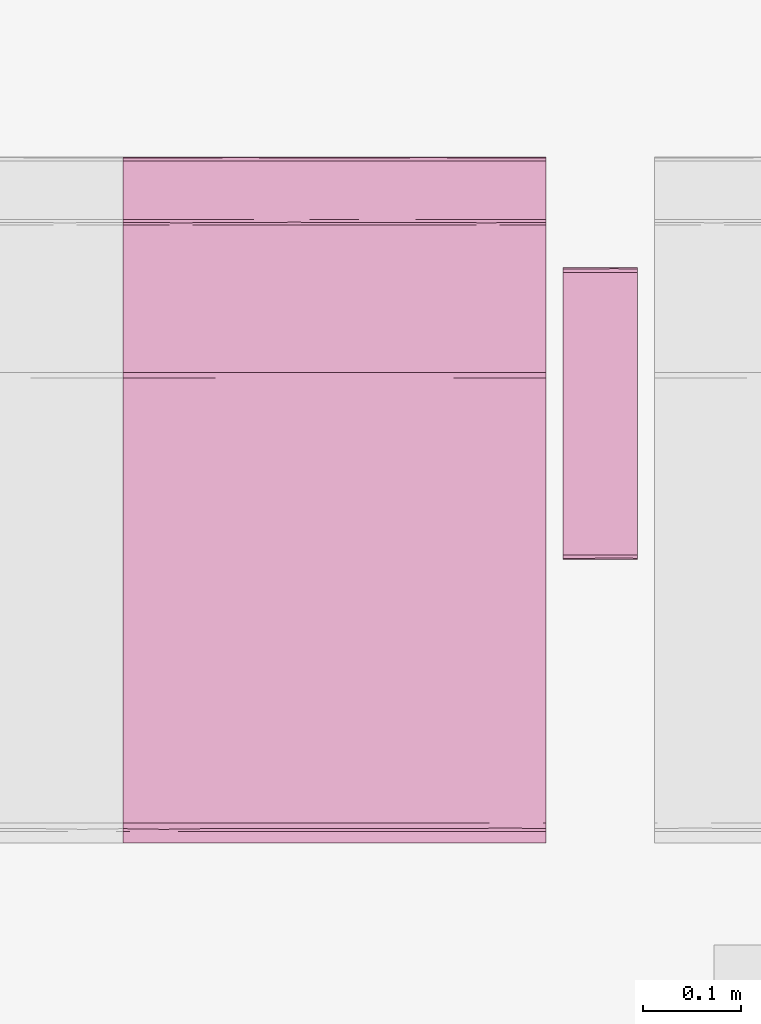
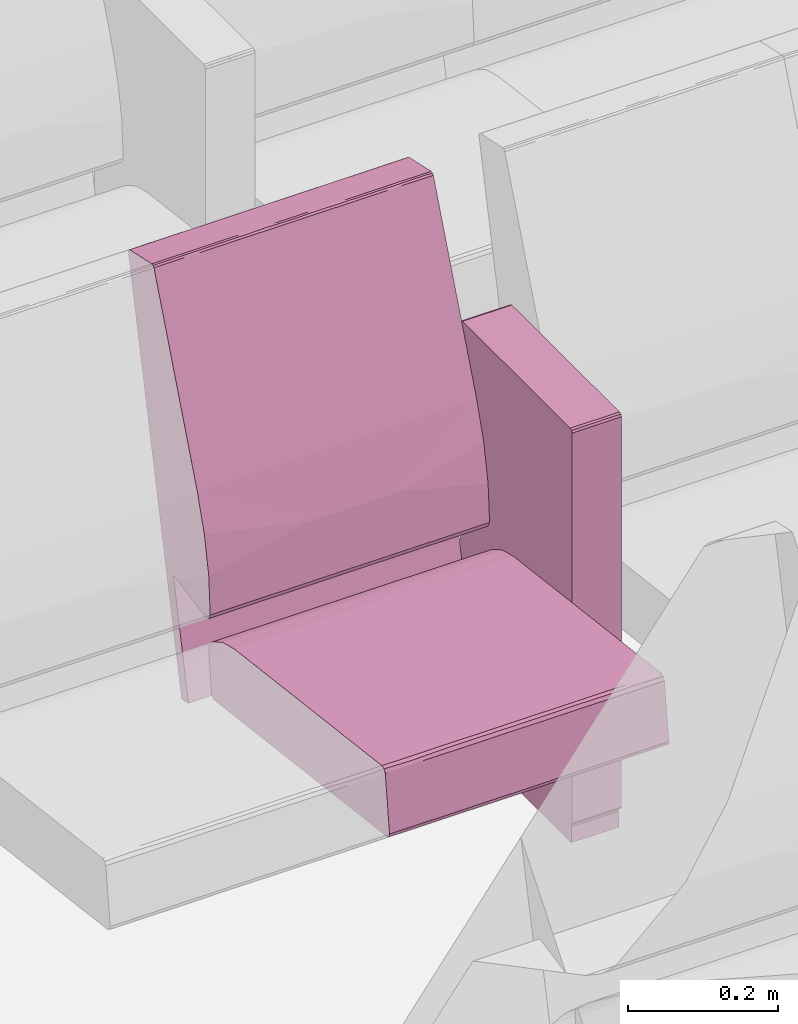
# One storey, part 96 of 155: 1 furnishing.
"""IFC2X3 building model written with IfcOpenShell, lengths in metres."""

from ifc_helpers import new_model, entity, si_unit, converted_unit, derived_unit, direction, frame, origin, place, context, subcontext, project, spatial, faceted_brep, source, transform, mapped, material, material_list, type_object, type_shapes, element, save


model = new_model("IFC2X3")

# Units and contexts
model_context = context("Model", 3, precision=1e-05, world=origin(), true_north=direction((6.12303176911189e-17, 1.0)))
body_context = subcontext(model_context, "Body", "Model", "MODEL_VIEW")
ifc_project = project(units=[si_unit("LENGTHUNIT", "METRE"), si_unit("AREAUNIT", "SQUARE_METRE"), si_unit("VOLUMEUNIT", "CUBIC_METRE"), converted_unit("PLANEANGLEUNIT", "DEGREE", entity("IfcRatioMeasure", 0.0174532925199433), si_unit("PLANEANGLEUNIT", "RADIAN"), dimensions=[0, 0, 0, 0, 0, 0, 0]), si_unit("MASSUNIT", "GRAM", prefix="KILO"), derived_unit("MASSDENSITYUNIT", [(si_unit("MASSUNIT", "GRAM", prefix="KILO"), 1), (si_unit("LENGTHUNIT", "METRE"), -3)]), si_unit("TIMEUNIT", "SECOND"), si_unit("FREQUENCYUNIT", "HERTZ"), si_unit("THERMODYNAMICTEMPERATUREUNIT", "DEGREE_CELSIUS"), derived_unit("THERMALTRANSMITTANCEUNIT", [(si_unit("MASSUNIT", "GRAM", prefix="KILO"), 1), (si_unit("THERMODYNAMICTEMPERATUREUNIT", "KELVIN"), -1), (si_unit("TIMEUNIT", "SECOND"), -3)]), derived_unit("VOLUMETRICFLOWRATEUNIT", [(si_unit("LENGTHUNIT", "METRE"), 3), (si_unit("TIMEUNIT", "SECOND"), -1)]), si_unit("ELECTRICCURRENTUNIT", "AMPERE"), si_unit("ELECTRICVOLTAGEUNIT", "VOLT"), si_unit("POWERUNIT", "WATT"), si_unit("FORCEUNIT", "NEWTON", prefix="KILO"), si_unit("ILLUMINANCEUNIT", "LUX"), si_unit("LUMINOUSFLUXUNIT", "LUMEN"), si_unit("LUMINOUSINTENSITYUNIT", "CANDELA"), derived_unit("USERDEFINED", [(si_unit("MASSUNIT", "GRAM", prefix="KILO"), -1), (si_unit("LENGTHUNIT", "METRE"), -2), (si_unit("TIMEUNIT", "SECOND"), 3), (si_unit("LUMINOUSFLUXUNIT", "LUMEN"), 1)]), derived_unit("LINEARVELOCITYUNIT", [(si_unit("LENGTHUNIT", "METRE"), 1), (si_unit("TIMEUNIT", "SECOND"), -1)]), si_unit("PRESSUREUNIT", "PASCAL"), derived_unit("USERDEFINED", [(si_unit("LENGTHUNIT", "METRE"), -2), (si_unit("MASSUNIT", "GRAM", prefix="KILO"), 1), (si_unit("TIMEUNIT", "SECOND"), -2)])], contexts=[model_context])

# Site, building, storey, space
site_placement = place(None, frame((26.9889013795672, -17.5624287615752, 0.0)))
site = spatial("IfcSite", under=ifc_project, at=site_placement, Name="Default", CompositionType="ELEMENT")
building_placement = place(site_placement, origin())
building = spatial("IfcBuilding", under=site, at=building_placement, Name="C. C. L. Monsenhor Antônio Sampaio", CompositionType="ELEMENT")
storey_placement = place(building_placement, frame((0.0, 0.0, 1.19999999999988)))
storey = spatial("IfcBuildingStorey", under=building, at=storey_placement, Name="Nível 1.2", CompositionType="ELEMENT", Elevation=1.19999999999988)
space_placement = place(storey_placement, origin())
space = spatial("IfcSpace", under=storey, at=space_placement, Name="94", CompositionType="ELEMENT", InteriorOrExteriorSpace="INTERNAL")

# Furnishing
ifc_material_1 = material(Name="V9 - V9 - Ecopelle_672_658")
ifc_material_2 = material(Name="V9 - V9 - RAL_9006_Grigio")
ifc_material_list_1 = material_list([ifc_material_1, ifc_material_2])
ifc_material_list_2 = material_list([ifc_material_1, ifc_material_2])
furniture_type = type_object("IfcFurnitureType", Name="Cadeira auditório", material=ifc_material_list_2)
shared_shape = source(origin(), body_context, "Body", "Brep", [
    faceted_brep([(0.405536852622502, -0.1075, 0.339809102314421), (0.410560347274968, -0.131924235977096, 0.34246450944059), (0.405536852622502, -0.156348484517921, 0.339809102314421), (0.41079981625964, -0.0179166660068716, 0.342749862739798), (0.410597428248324, -0.084060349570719, 0.342506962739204), (0.405536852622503, -0.0537499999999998, 0.339809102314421), (0.410248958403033, -0.173608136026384, 0.342130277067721), (0.405536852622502, -0.215, 0.339809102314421), (0.412515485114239, -0.143333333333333, 0.348529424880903), (0.412515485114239, -0.185674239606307, 0.348529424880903), (0.405536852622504, 0.1075, 0.33980910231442), (0.405536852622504, 0.156348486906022, 0.33980910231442), (0.410560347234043, 0.131924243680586, 0.342464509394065), (0.405536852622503, 0.0, 0.33980910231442), (0.411170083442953, 0.0341365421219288, 0.343251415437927), (0.41251548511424, 0.0, 0.348529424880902), (0.412515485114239, -0.0358333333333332, 0.348529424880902), (0.412515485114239, -0.0716666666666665, 0.348529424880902), (0.41251548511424, 0.143333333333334, 0.348529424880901), (0.41059742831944, 0.0840603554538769, 0.342506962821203), (0.405536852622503, 0.0537500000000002, 0.33980910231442), (0.410248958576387, 0.173608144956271, 0.342130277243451), (0.410799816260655, 0.215, 0.342749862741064), (0.412515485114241, 0.185674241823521, 0.348529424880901), (0.412515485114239, -0.215, 0.348529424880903), (0.410799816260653, -0.215, 0.342749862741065), (0.412515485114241, 0.215, 0.348529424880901), (0.41251548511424, 0.0716666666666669, 0.348529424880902), (0.405536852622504, 0.215, 0.33980910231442), (-0.0557900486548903, -0.215, 0.28268145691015), (-0.0557900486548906, -0.1881249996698, 0.282681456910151), (-0.0557900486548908, -0.161250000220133, 0.282681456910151), (-0.055790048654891, -0.134374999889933, 0.282681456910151), (-0.0557900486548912, -0.107499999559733, 0.282681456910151), (-0.0557900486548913, -0.0806250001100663, 0.282681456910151), (-0.0557900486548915, -0.0537499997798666, 0.282681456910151), (-0.0557900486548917, -0.0268749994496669, 0.282681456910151), (-0.0557900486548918, 0.0, 0.28268145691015), (-0.0557900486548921, 0.0268750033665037, 0.282681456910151), (-0.0557900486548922, 0.0537499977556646, 0.282681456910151), (-0.0557900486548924, 0.0806249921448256, 0.282681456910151), (-0.0557900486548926, 0.107499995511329, 0.282681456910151), (-0.0557900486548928, 0.138065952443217, 0.282681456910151), (-0.055790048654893, 0.168631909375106, 0.282681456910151), (-0.0557900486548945, 0.215, 0.28268145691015), (-0.0594787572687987, -0.0179017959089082, 0.283700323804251), (-0.0613666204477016, 0.0, 0.287029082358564), (-0.0594787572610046, 0.0152829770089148, 0.283700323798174), (-0.0594787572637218, -0.215, 0.283700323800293), (-0.0613666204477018, -0.215, 0.287029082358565), (-0.0613666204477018, -0.191815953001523, 0.287029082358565), (-0.0613666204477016, -0.030565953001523, 0.287029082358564), (-0.0593340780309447, -0.0671874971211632, 0.283591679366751), (-0.0593337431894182, 0.184174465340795, 0.283591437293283), (-0.0594787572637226, 0.215, 0.283700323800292), (-0.0593023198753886, 0.0940625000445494, 0.283568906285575), (-0.0613666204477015, 0.0611319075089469, 0.287029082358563), (-0.0613666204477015, 0.0916978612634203, 0.287029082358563), (-0.0613666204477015, 0.122263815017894, 0.287029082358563), (-0.0597338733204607, -0.147039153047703, 0.283913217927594), (-0.0613666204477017, -0.122263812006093, 0.287029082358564), (-0.059382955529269, -0.118123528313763, 0.28362747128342), (-0.0592501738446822, -0.180223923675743, 0.283532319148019), (-0.0613666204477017, -0.168631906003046, 0.287029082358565), (-0.0588783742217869, -0.0926899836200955, 0.283298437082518), (-0.0613666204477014, 0.168631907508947, 0.287029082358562), (-0.0613666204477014, 0.215, 0.287029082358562), (-0.0592576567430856, 0.123736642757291, 0.283537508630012), (-0.0594787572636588, 0.153348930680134, 0.283700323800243), (-0.0613666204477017, -0.0916978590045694, 0.287029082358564), (-0.0613666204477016, 0.0305659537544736, 0.287029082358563), (-0.059645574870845, 0.045848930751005, 0.283836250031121), (-0.0613666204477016, -0.0611319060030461, 0.287029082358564), (-0.0693403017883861, 0.143333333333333, 0.351419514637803), (-0.069340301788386, 0.215, 0.351419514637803), (-0.0693403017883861, -0.215, 0.351419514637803), (-0.0693403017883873, -0.143333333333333, 0.351419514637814), (-0.069340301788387, -0.0716666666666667, 0.351419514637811), (-0.0693403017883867, 0.0, 0.351419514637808), (-0.0693403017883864, 0.0716666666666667, 0.351419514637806), (-0.0653387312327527, -0.0126787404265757, 0.368680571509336), (-0.0645543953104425, -0.112272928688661, 0.369803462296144), (-0.0597085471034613, 0.0, 0.37476954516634), (-0.0655136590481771, 0.104400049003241, 0.368411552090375), (-0.0681665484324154, 0.0888707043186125, 0.36292533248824), (-0.0694879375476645, -0.0590582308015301, 0.356377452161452), (-0.0695056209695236, 0.125492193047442, 0.356093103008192), (-0.0597085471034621, 0.110316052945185, 0.374769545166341), (-0.0676206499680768, -0.215, 0.364371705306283), (-0.0672851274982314, -0.108066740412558, 0.365148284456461), (-0.0690003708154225, -0.132942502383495, 0.359900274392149), (-0.068624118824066, -0.215, 0.356813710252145), (-0.0686241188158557, 0.214999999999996, 0.356813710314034), (-0.0694502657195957, 0.0358333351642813, 0.356863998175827), (-0.0686999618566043, -0.035833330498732, 0.36116674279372), (-0.067620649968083, 0.214999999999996, 0.364371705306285), (-0.063664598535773, 0.214999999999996, 0.369570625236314), (-0.0597085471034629, 0.214999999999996, 0.374769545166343), (-0.0597085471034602, -0.110316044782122, 0.374769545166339), (-0.0636645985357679, -0.215, 0.36957062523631), (-0.0597085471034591, -0.215, 0.374769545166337), (-0.0018793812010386, -0.215, 0.398686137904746), (-0.0324117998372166, -0.0436847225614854, 0.39063968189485), (-0.0324117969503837, -0.215, 0.390639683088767), (-0.041847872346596, 0.0856576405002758, 0.386239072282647), (-0.00187938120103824, 0.102488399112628, 0.398686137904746), (-0.00187938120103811, 0.215, 0.398686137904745), (-0.0324117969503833, 0.215, 0.390639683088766), (-0.0219042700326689, 0.0570631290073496, 0.394412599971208), (-0.00187938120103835, 0.0, 0.398686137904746), (0.392202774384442, -0.215, 0.447486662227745), (0.392202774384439, -0.156349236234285, 0.447486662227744), (0.392202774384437, -0.107499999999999, 0.447486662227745), (0.392202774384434, -0.0537499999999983, 0.447486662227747), (0.392202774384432, 0.0, 0.447486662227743), (0.392202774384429, 0.0537500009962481, 0.44748666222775), (0.392202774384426, 0.107500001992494, 0.447486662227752), (0.392202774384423, 0.156349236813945, 0.447486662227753), (0.392202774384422, 0.215, 0.447486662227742), (0.397860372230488, 0.0827732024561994, 0.446039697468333), (0.401125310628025, 0.0976984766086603, 0.440530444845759), (0.398104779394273, 0.131924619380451, 0.445856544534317), (0.397373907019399, 0.173462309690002, 0.446363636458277), (0.401125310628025, 0.156349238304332, 0.440530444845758), (0.401125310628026, 0.215000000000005, 0.440530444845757), (0.398104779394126, 0.215000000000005, 0.445856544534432), (0.397860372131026, -0.0827731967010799, 0.446039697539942), (0.398104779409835, -0.131924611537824, 0.445856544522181), (0.398104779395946, -0.0268749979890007, 0.445856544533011), (0.398104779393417, 0.0237489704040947, 0.445856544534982), (0.401125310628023, -0.0488492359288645, 0.440530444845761), (0.401125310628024, 0.0488492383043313, 0.44053044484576), (0.398774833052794, -0.173462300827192, 0.445271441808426), (0.401125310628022, -0.0976984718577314, 0.440530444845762), (0.39810477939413, -0.215, 0.445856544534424), (0.401125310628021, -0.215, 0.440530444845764), (0.401125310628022, -0.156349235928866, 0.440530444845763), (0.401125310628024, 0.0, 0.44053044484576)], [[[0, 1, 2]], [[3, 4, 5]], [[2, 6, 7]], [[8, 9, 6]], [[10, 11, 12]], [[13, 3, 5]], [[3, 14, 15]], [[1, 4, 8]], [[6, 1, 8]], [[4, 3, 16]], [[16, 17, 8, 4]], [[12, 18, 19]], [[4, 1, 0]], [[20, 14, 13]], [[21, 22, 23]], [[15, 16, 3]], [[9, 24, 25]], [[26, 23, 22]], [[7, 6, 25]], [[12, 11, 21]], [[19, 14, 20]], [[4, 0, 5]], [[14, 27, 15]], [[13, 14, 3]], [[19, 18, 27]], [[19, 10, 12]], [[18, 21, 23]], [[10, 19, 20]], [[19, 27, 14]], [[2, 1, 6]], [[21, 11, 28]], [[25, 6, 9]], [[18, 12, 21]], [[22, 21, 28]], [[28, 11, 10, 20, 13, 5, 0, 2, 7, 29, 30, 31, 32, 33, 34, 35, 36, 37, 38, 39, 40, 41, 42, 43, 44]], [[45, 46, 47]], [[48, 49, 50]], [[51, 45, 52]], [[53, 54, 44]], [[55, 56, 57, 58]], [[59, 60, 61]], [[62, 63, 59]], [[34, 64, 52]], [[53, 65, 66]], [[41, 67, 42]], [[37, 36, 35, 45, 47, 38]], [[43, 42, 68]], [[29, 48, 30]], [[59, 31, 62]], [[62, 48, 50]], [[61, 69, 64]], [[65, 53, 68]], [[50, 63, 62]], [[62, 30, 48]], [[55, 58, 67]], [[32, 31, 59]], [[46, 70, 47]], [[65, 68, 58]], [[55, 40, 71]], [[70, 56, 71]], [[61, 33, 32]], [[59, 63, 60]], [[39, 38, 71, 40]], [[47, 71, 38]], [[51, 46, 45]], [[70, 71, 47]], [[71, 56, 55]], [[40, 55, 41]], [[67, 68, 42]], [[43, 68, 53]], [[43, 53, 44]], [[66, 54, 53]], [[68, 67, 58]], [[55, 67, 41]], [[72, 51, 52, 69]], [[62, 31, 30]], [[59, 61, 32]], [[35, 52, 45]], [[64, 34, 33]], [[34, 52, 35]], [[61, 60, 69]], [[52, 64, 69]], [[61, 64, 33]], [[73, 74, 66, 65, 58, 57, 56, 70, 46, 51, 72, 69, 60, 63, 50, 49, 75, 76, 77, 78, 79]], [[80, 81, 82]], [[83, 84, 80]], [[85, 78, 77, 76]], [[73, 79, 86]], [[80, 82, 83]], [[87, 83, 82]], [[88, 89, 90]], [[76, 75, 91]], [[92, 74, 73]], [[91, 90, 85]], [[80, 89, 81]], [[84, 93, 94]], [[84, 86, 93]], [[93, 78, 85]], [[73, 86, 92]], [[94, 93, 85]], [[95, 92, 84]], [[78, 93, 79]], [[80, 84, 94]], [[83, 96, 95]], [[94, 85, 90]], [[87, 97, 96]], [[98, 99, 100]], [[91, 85, 76]], [[94, 90, 89]], [[90, 91, 88]], [[89, 80, 94]], [[89, 99, 81]], [[89, 88, 99]], [[82, 81, 98]], [[81, 99, 98]], [[92, 86, 84]], [[93, 86, 79]], [[84, 83, 95]], [[96, 83, 87]], [[101, 102, 103]], [[104, 97, 87, 82]], [[105, 106, 107]], [[107, 108, 105]], [[109, 102, 101]], [[82, 102, 104]], [[102, 108, 104]], [[103, 102, 100]], [[97, 104, 107]], [[104, 108, 107]], [[102, 82, 98, 100]], [[105, 108, 109]], [[108, 102, 109]], [[109, 101, 110, 111, 112, 113, 114, 115, 116, 117, 118, 106, 105]], [[119, 120, 121]], [[122, 123, 124]], [[122, 125, 118]], [[126, 113, 112]], [[117, 121, 122]], [[121, 117, 116]], [[112, 111, 127]], [[113, 128, 129, 115, 114]], [[126, 130, 128]], [[129, 131, 119]], [[111, 132, 127]], [[132, 111, 110]], [[133, 126, 127]], [[123, 122, 121]], [[132, 134, 135]], [[127, 132, 136]], [[123, 121, 120]], [[127, 136, 133]], [[129, 128, 130, 137, 131]], [[112, 127, 126]], [[126, 133, 130]], [[119, 121, 116]], [[113, 126, 128]], [[119, 115, 129]], [[119, 116, 115]], [[120, 119, 131]], [[117, 122, 118]], [[124, 125, 122]], [[136, 132, 135]], [[110, 134, 132]], [[137, 130, 133, 136, 135, 24, 9, 8, 17, 16, 15, 27, 18, 23, 26, 124, 123, 120, 131]], [[44, 54, 66, 74, 92, 95, 96, 97, 107, 106, 118, 125, 124, 26, 22, 28]], [[75, 49, 48, 29, 7, 25, 24, 135, 134, 110, 101, 103, 100, 99, 88, 91]]]),
    faceted_brep([(0.119812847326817, 0.27, 0.674900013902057), (0.12334838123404, 0.259944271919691, 0.6734355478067), (0.123144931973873, 0.283972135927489, 0.673627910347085), (0.124812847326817, 0.27, 0.669900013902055), (0.119812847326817, 0.232, 0.674900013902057), (0.12334838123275, 0.232, 0.673435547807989), (0.124812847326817, 0.308, 0.669900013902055), (0.119812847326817, 0.308, 0.674900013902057), (0.124812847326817, 0.249888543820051, 0.669900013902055), (0.124812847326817, 0.232, 0.669900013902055), (0.12334838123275, 0.308, 0.673435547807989), (0.124812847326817, 0.232, 0.0349999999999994), (0.124812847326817, 0.27, 0.035), (0.124812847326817, 0.308, 0.035), (0.12334838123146, 0.25994427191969, 0.0314644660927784), (0.123540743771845, 0.283972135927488, 0.0316679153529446), (0.119812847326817, 0.27, 0.0300000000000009), (0.12334838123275, 0.232, 0.0314644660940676), (0.119812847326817, 0.308, 0.0300000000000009), (0.119812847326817, 0.249888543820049, 0.030000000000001), (0.119812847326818, 0.232, 0.030000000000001), (0.123348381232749, 0.308, 0.0314644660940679), (-0.167179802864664, 0.27, 0.0300000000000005), (-0.167179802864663, 0.308, 0.0300000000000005), (-0.167179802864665, 0.232, 0.0300000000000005), (-0.170715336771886, 0.25994427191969, 0.0314644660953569), (-0.17051188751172, 0.283972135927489, 0.0312721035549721), (-0.172179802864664, 0.27, 0.0350000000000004), (-0.170715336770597, 0.232, 0.0314644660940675), (-0.172179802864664, 0.308, 0.0350000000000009), (-0.172179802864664, 0.24988854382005, 0.0350000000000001), (-0.172179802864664, 0.232, 0.0349999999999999), (-0.170715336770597, 0.308, 0.0314644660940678), (-0.172179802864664, 0.308, 0.669900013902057), (-0.172179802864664, 0.232, 0.669900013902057), (-0.172179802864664, 0.27, 0.669900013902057), (-0.170715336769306, 0.259944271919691, 0.673435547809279), (-0.170907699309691, 0.283972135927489, 0.673232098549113), (-0.167179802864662, 0.27, 0.674900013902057), (-0.170715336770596, 0.232, 0.67343554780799), (-0.167179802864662, 0.308, 0.674900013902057), (-0.167179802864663, 0.249888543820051, 0.674900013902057), (-0.167179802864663, 0.232, 0.674900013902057), (-0.170715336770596, 0.308, 0.67343554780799)], [[[0, 1, 2]], [[3, 2, 1]], [[0, 4, 5, 1]], [[2, 3, 6]], [[0, 2, 7]], [[8, 3, 1, 5, 9]], [[7, 2, 10]], [[6, 10, 2]], [[9, 11, 12, 13, 6, 3, 8]], [[12, 14, 15]], [[16, 15, 14]], [[12, 11, 17, 14]], [[15, 16, 18]], [[12, 15, 13]], [[19, 16, 14, 17, 20]], [[13, 15, 21]], [[18, 21, 15]], [[22, 23, 18, 16, 19, 20, 24]], [[22, 25, 26]], [[27, 26, 25]], [[22, 24, 28, 25]], [[26, 27, 29]], [[22, 26, 23]], [[30, 27, 25, 28, 31]], [[23, 26, 32]], [[29, 32, 26]], [[33, 29, 27, 30, 31, 34, 35]], [[35, 36, 37]], [[38, 37, 36]], [[35, 34, 39, 36]], [[37, 38, 40]], [[35, 37, 33]], [[41, 38, 36, 39, 42]], [[33, 37, 43]], [[40, 43, 37]], [[0, 7, 40, 38, 41, 42, 4]], [[42, 39, 34, 31, 28, 24, 20, 17, 11, 9, 5, 4]], [[23, 32, 29, 33, 43, 40, 7, 10, 6, 13, 21, 18]]]),
    faceted_brep([(-0.0655618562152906, -0.215, 0.415143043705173), (-0.0744051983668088, -0.0524423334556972, 0.506888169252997), (-0.0695672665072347, -0.215, 0.476508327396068), (-0.0655618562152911, 0.0, 0.415143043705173), (-0.0744051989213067, 0.0780075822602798, 0.506888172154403), (-0.0655618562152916, 0.1075, 0.415143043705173), (-0.0655618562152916, 0.215, 0.415143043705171), (-0.0655618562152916, -0.1075, 0.415143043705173), (-0.0695672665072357, 0.215, 0.476508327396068), (-0.0811110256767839, 0.215, 0.536911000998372), (-0.0811110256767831, -0.215, 0.536911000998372), (-0.100016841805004, 0.0, 0.595428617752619), (-0.100016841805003, -0.215, 0.595428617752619), (-0.100016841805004, 0.215, 0.595428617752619), (-0.0792851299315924, -0.0716666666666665, 0.404772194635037), (-0.0792851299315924, 0.0, 0.404772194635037), (-0.0698317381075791, -0.0358333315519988, 0.406528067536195), (-0.0698317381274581, 0.215, 0.406528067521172), (-0.0792851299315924, 0.143333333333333, 0.404772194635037), (-0.0792851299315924, 0.215, 0.404772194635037), (-0.0698317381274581, -0.215, 0.406528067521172), (-0.0792851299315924, -0.215, 0.404772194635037), (-0.0792851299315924, -0.143333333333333, 0.404772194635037), (-0.0694171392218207, -0.140338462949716, 0.406857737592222), (-0.0708115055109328, 0.0356393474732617, 0.405868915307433), (-0.0703502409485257, 0.107500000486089, 0.406159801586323), (-0.0792851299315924, 0.0716666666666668, 0.404772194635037), (-0.163837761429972, 0.215, 0.420611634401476), (-0.163837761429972, -0.215, 0.420611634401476), (-0.123612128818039, -0.215, 0.235917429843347), (-0.123612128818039, 0.215, 0.235917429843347), (-0.142059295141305, -0.215, 0.231899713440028), (-0.142059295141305, 0.215, 0.231899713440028), (-0.235388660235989, -0.215, 0.652619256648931), (-0.235388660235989, 0.215, 0.652619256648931), (-0.28428001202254, 0.0, 0.873004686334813), (-0.284280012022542, 0.0268749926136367, 0.873004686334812), (-0.284280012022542, 0.0537499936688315, 0.873004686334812), (-0.284280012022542, 0.0806249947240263, 0.873004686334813), (-0.284280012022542, 0.107499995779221, 0.873004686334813), (-0.284280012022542, 0.134374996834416, 0.873004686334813), (-0.284280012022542, 0.161249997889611, 0.873004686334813), (-0.284280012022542, 0.191295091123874, 0.873004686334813), (-0.28428001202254, 0.215, 0.873004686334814), (-0.284280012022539, -0.215, 0.873004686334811), (-0.28428001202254, -0.191295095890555, 0.873004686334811), (-0.284280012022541, -0.161249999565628, 0.873004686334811), (-0.284280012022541, -0.134374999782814, 0.873004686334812), (-0.284280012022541, -0.1075, 0.873004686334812), (-0.284280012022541, -0.0806250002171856, 0.873004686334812), (-0.284280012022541, -0.0537500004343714, 0.873004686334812), (-0.284280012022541, -0.0268749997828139, 0.873004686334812), (-0.283504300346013, -0.0569644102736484, 0.877068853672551), (-0.283746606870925, -0.0872244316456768, 0.876674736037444), (-0.283641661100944, 0.12093750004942, 0.876855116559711), (-0.283567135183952, 0.15546176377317, 0.876973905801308), (-0.28330409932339, -0.185293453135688, 0.877344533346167), (-0.283567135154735, -0.155461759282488, 0.876973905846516), (-0.280514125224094, 0.0, 0.879190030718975), (-0.280514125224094, 0.0358333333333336, 0.879190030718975), (-0.283641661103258, 0.0136463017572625, 0.876855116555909), (-0.283641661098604, -0.0179166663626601, 0.876855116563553), (-0.280514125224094, -0.0358333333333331, 0.879190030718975), (-0.280514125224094, 0.1075, 0.879190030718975), (-0.280514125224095, 0.143333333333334, 0.879190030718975), (-0.283746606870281, 0.0872244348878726, 0.876674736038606), (-0.280514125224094, 0.071666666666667, 0.879190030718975), (-0.280514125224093, -0.1075, 0.879190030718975), (-0.280514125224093, -0.0716666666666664, 0.879190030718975), (-0.280514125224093, -0.143333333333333, 0.879190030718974), (-0.283641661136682, -0.120937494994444, 0.876855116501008), (-0.283641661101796, -0.215, 0.876855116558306), (-0.283641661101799, 0.215, 0.876855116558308), (-0.280514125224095, 0.167590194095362, 0.879190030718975), (-0.283304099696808, 0.18529345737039, 0.877344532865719), (-0.280514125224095, 0.215, 0.879190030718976), (-0.280514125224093, -0.167590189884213, 0.879190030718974), (-0.280514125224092, -0.215, 0.879190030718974), (-0.283504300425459, 0.0569644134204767, 0.8770688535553), (-0.221112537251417, -0.215, 0.892176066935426), (-0.221112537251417, -0.19181594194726, 0.892176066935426), (-0.221112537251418, -0.16124999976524, 0.892176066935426), (-0.221112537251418, -0.13437499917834, 0.892176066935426), (-0.221112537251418, -0.10749999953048, 0.892176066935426), (-0.221112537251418, -0.08062499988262, 0.892176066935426), (-0.221112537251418, -0.0537500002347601, 0.892176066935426), (-0.221112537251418, -0.0268750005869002, 0.892176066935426), (-0.221112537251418, 0.0, 0.892176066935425), (-0.221112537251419, 0.0268750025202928, 0.892176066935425), (-0.221112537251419, 0.053749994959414, 0.892176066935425), (-0.221112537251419, 0.0806249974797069, 0.892176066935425), (-0.221112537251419, 0.1075, 0.892176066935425), (-0.221112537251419, 0.134375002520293, 0.892176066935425), (-0.221112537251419, 0.161250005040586, 0.892176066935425), (-0.221112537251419, 0.191815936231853, 0.892176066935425), (-0.221112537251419, 0.215, 0.892176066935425), (-0.217722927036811, -0.0162353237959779, 0.891719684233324), (-0.215419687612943, -0.0358333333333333, 0.889191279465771), (-0.215419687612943, 0.0, 0.889191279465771), (-0.217722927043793, 0.0134375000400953, 0.891719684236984), (-0.217722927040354, 0.120937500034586, 0.89171968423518), (-0.217722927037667, 0.0912646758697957, 0.891719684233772), (-0.215419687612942, 0.0716666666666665, 0.88919127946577), (-0.215419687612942, 0.1075, 0.88919127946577), (-0.215419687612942, 0.143333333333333, 0.88919127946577), (-0.217722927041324, 0.215, 0.891719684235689), (-0.217722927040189, 0.182482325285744, 0.891719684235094), (-0.215419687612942, 0.168631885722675, 0.889191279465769), (-0.215419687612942, 0.191815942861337, 0.889191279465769), (-0.215419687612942, 0.215, 0.889191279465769), (-0.217722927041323, -0.215, 0.89171968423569), (-0.215419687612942, -0.215, 0.889191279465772), (-0.215419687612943, -0.191815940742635, 0.889191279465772), (-0.217722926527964, -0.190103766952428, 0.891719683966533), (-0.2179983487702, 0.039082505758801, 0.891853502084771), (-0.217816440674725, 0.0647800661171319, 0.891767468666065), (-0.217558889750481, 0.155982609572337, 0.891629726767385), (-0.217722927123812, -0.120937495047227, 0.891719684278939), (-0.217558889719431, -0.15598260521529, 0.891629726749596), (-0.215419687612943, -0.143333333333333, 0.889191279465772), (-0.215419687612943, -0.16863188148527, 0.889191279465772), (-0.215419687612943, -0.0716666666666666, 0.889191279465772), (-0.217816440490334, -0.0647800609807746, 0.891767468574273), (-0.217722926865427, -0.0912646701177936, 0.891719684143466), (-0.215419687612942, 0.0358333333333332, 0.889191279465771), (-0.215419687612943, -0.1075, 0.889191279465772), (-0.218257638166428, -0.0404491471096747, 0.891961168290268)], [[[0, 1, 2]], [[3, 4, 1]], [[4, 3, 5, 6]], [[1, 0, 7, 3]], [[8, 4, 6]], [[9, 4, 8]], [[1, 10, 2]], [[1, 11, 12]], [[9, 13, 4]], [[13, 11, 4]], [[10, 1, 12]], [[11, 1, 4]], [[14, 15, 16]], [[17, 18, 19]], [[20, 21, 22]], [[20, 23, 0]], [[3, 7, 16]], [[15, 24, 16]], [[24, 25, 5]], [[22, 23, 20]], [[7, 23, 16]], [[6, 5, 17]], [[16, 24, 3]], [[16, 23, 14]], [[23, 22, 14]], [[18, 25, 26]], [[18, 17, 25]], [[26, 24, 15]], [[7, 0, 23]], [[5, 25, 17]], [[25, 24, 26]], [[3, 24, 5]], [[27, 19, 18, 26, 15, 14, 22, 21, 28]], [[27, 28, 29, 30]], [[31, 32, 30, 29]], [[33, 34, 32, 31]], [[35, 36, 37, 38, 39, 40, 41, 42, 43, 34, 33, 44, 45, 46, 47, 48, 49, 50, 51]], [[52, 49, 53]], [[54, 55, 40]], [[46, 56, 57]], [[58, 59, 60, 61, 62]], [[54, 63, 64]], [[65, 66, 63]], [[67, 68, 53]], [[57, 69, 70]], [[45, 56, 46]], [[39, 54, 40]], [[45, 44, 71]], [[72, 43, 42]], [[35, 51, 61, 60, 36]], [[55, 73, 74]], [[39, 65, 54]], [[74, 73, 75]], [[67, 53, 70]], [[74, 42, 41]], [[64, 73, 55]], [[56, 76, 57]], [[74, 72, 42]], [[76, 56, 77]], [[56, 71, 77]], [[57, 76, 69]], [[48, 70, 53]], [[70, 48, 47]], [[60, 78, 36]], [[63, 54, 65]], [[71, 56, 45]], [[41, 55, 74]], [[72, 74, 75]], [[57, 70, 47]], [[47, 46, 57]], [[69, 67, 70]], [[50, 49, 52, 51]], [[52, 62, 61]], [[61, 51, 52]], [[55, 41, 40]], [[55, 54, 64]], [[66, 65, 78]], [[65, 38, 78]], [[52, 53, 68]], [[37, 36, 78, 38]], [[78, 59, 66]], [[59, 78, 60]], [[49, 48, 53]], [[65, 39, 38]], [[52, 68, 62]], [[79, 80, 81, 82, 83, 84, 85, 86, 87, 88, 89, 90, 91, 92, 93, 94, 95, 75, 73, 64, 63, 66, 59, 58, 62, 68, 67, 69, 76, 77]], [[96, 97, 98, 99]], [[100, 101, 102, 103, 104]], [[105, 106, 107, 108, 109]], [[110, 111, 112]], [[80, 110, 113]], [[89, 114, 115]], [[92, 116, 93]], [[94, 93, 106, 105, 95]], [[80, 79, 110]], [[92, 91, 90, 101, 100]], [[99, 88, 87, 86, 96]], [[104, 107, 116]], [[117, 83, 82]], [[117, 118, 119]], [[112, 120, 113]], [[118, 120, 119]], [[118, 81, 113]], [[116, 107, 106]], [[101, 90, 115]], [[121, 122, 123]], [[104, 116, 100]], [[110, 112, 113]], [[114, 99, 124]], [[92, 100, 116]], [[117, 125, 123]], [[82, 81, 118]], [[118, 117, 82]], [[83, 117, 123]], [[125, 117, 119]], [[102, 101, 115]], [[84, 83, 123]], [[123, 125, 121]], [[85, 84, 122]], [[89, 115, 90]], [[96, 86, 126]], [[124, 102, 115]], [[88, 99, 114]], [[99, 98, 124]], [[122, 121, 97]], [[126, 122, 97]], [[88, 114, 89]], [[115, 114, 124]], [[123, 122, 84]], [[126, 85, 122]], [[85, 126, 86]], [[96, 126, 97]], [[116, 106, 93]], [[80, 113, 81]], [[118, 113, 120]], [[12, 11, 13, 109, 108, 107, 104, 103, 102, 124, 98, 97, 121, 125, 119, 120, 112, 111]], [[30, 32, 34, 43, 72, 75, 95, 105, 109, 13, 9, 8, 6, 17, 19, 27]], [[77, 71, 44, 33, 31, 29, 28, 21, 20, 0, 2, 10, 12, 111, 110, 79]]]),
    faceted_brep([(0.120312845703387, 0.2335, 0.0), (0.120312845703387, 0.3065, 0.0), (0.120312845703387, 0.3065, 0.0260000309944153), (0.120312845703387, 0.27, 0.0260000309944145), (0.120312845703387, 0.249500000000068, 0.0260000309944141), (0.120312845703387, 0.2335, 0.0260000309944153), (-0.167687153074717, 0.2335, 0.0), (-0.167687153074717, 0.3065, 0.0), (-0.167687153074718, 0.3065, 0.0260000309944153), (-0.167687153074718, 0.2335, 0.0260000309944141), (-0.167687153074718, 0.27, 0.0260000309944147), (-0.163702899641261, 0.233500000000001, 0.0300000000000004), (-0.166521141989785, 0.257382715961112, 0.0288228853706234), (-0.166521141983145, 0.233500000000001, 0.0288228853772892), (-0.166521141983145, 0.3065, 0.0288228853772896), (-0.16652114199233, 0.279986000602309, 0.0288228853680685), (-0.163702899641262, 0.3065, 0.0300000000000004), (-0.163702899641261, 0.27, 0.0300000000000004), (0.116297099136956, 0.2335, 0.0300000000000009), (0.116297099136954, 0.270000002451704, 0.0300000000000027), (0.116297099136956, 0.3065, 0.0300000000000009), (0.119033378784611, 0.283124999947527, 0.0289323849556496), (0.119135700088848, 0.259750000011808, 0.0288340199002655), (0.1191357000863, 0.2335, 0.0288340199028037), (0.119135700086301, 0.3065, 0.0288340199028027)], [[[0, 1, 2, 3, 4, 5]], [[6, 7, 1, 0]], [[8, 7, 6, 9, 10]], [[11, 12, 13]], [[14, 15, 16]], [[17, 16, 15, 12, 11]], [[13, 12, 10, 9]], [[8, 15, 14]], [[12, 15, 8, 10]], [[16, 17, 11, 18, 19, 20]], [[3, 2, 21]], [[22, 19, 18, 23]], [[22, 23, 5, 4, 3]], [[20, 21, 24]], [[22, 3, 21]], [[19, 21, 20]], [[2, 24, 21]], [[19, 22, 21]], [[20, 24, 2, 1, 7, 8, 14, 16]], [[18, 11, 13, 9, 6, 0, 5, 23]]]),
])
type_shapes(furniture_type, [shared_shape])
furnishing_placement = place(space_placement, frame((-12.9959492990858, -14.3320195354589, 0.0), z_axis=(0.0, 0.0, 1.0), x_axis=(0.0, -1.0, 0.0)))
element("IfcFurnishingElement", 1, at=furnishing_placement, inside=space, type_object=furniture_type, material=ifc_material_list_1, Name="cadeira auditório pcd:Cadeira auditório", ObjectType="Cadeira auditório", context=body_context, shape_type="MappedRepresentation", body=[
    mapped(shared_shape, transform((0.0, 0.0, 0.0), scale=1.0)),
])

save(model, "model.ifc")
